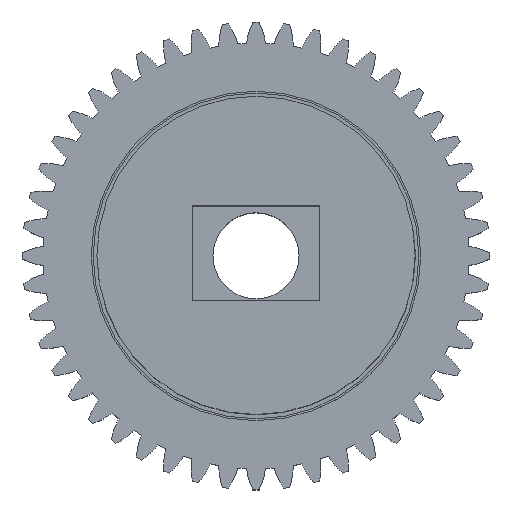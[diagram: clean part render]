
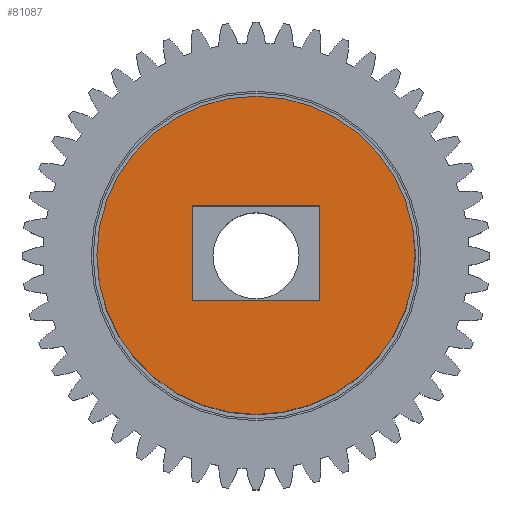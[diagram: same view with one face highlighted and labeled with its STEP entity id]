
A CAD part, top view. The second image highlights one B-rep face of the part: STEP entity #81087.
In plain terms, the highlighted planar face has unit normal (0, 0, 1) as drawn and (0, 0, -1) by its records, which use the part's own axes.
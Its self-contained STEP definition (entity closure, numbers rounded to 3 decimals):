
#80540 = PLANE('',#80541);
#80541 = AXIS2_PLACEMENT_3D('',#80542,#80543,#80544);
#80542 = CARTESIAN_POINT('',(-6.8,-5.3,67.));
#80543 = DIRECTION('',(1.,0.,-0.));
#80544 = DIRECTION('',(0.,0.,1.));
#80568 = PLANE('',#80569);
#80569 = AXIS2_PLACEMENT_3D('',#80570,#80571,#80572);
#80570 = CARTESIAN_POINT('',(-6.8,-5.3,67.));
#80571 = DIRECTION('',(-0.,1.,0.));
#80572 = DIRECTION('',(0.,0.,1.));
#80596 = PLANE('',#80597);
#80597 = AXIS2_PLACEMENT_3D('',#80598,#80599,#80600);
#80598 = CARTESIAN_POINT('',(6.8,-5.3,67.));
#80599 = DIRECTION('',(1.,0.,-0.));
#80600 = DIRECTION('',(0.,0.,1.));
#80622 = PLANE('',#80623);
#80623 = AXIS2_PLACEMENT_3D('',#80624,#80625,#80626);
#80624 = CARTESIAN_POINT('',(-6.8,4.8,67.));
#80625 = DIRECTION('',(-0.,1.,0.));
#80626 = DIRECTION('',(0.,0.,1.));
#80696 = VERTEX_POINT('',#80697);
#80697 = CARTESIAN_POINT('',(-6.8,-5.3,68.));
#80718 = EDGE_CURVE('',#80696,#80719,#80721,.T.);
#80719 = VERTEX_POINT('',#80720);
#80720 = CARTESIAN_POINT('',(-6.8,4.8,68.));
#80721 = SURFACE_CURVE('',#80722,(#80726,#80732),.PCURVE_S1.);
#80722 = LINE('',#80723,#80724);
#80723 = CARTESIAN_POINT('',(-6.8,-2.65,68.));
#80724 = VECTOR('',#80725,1.);
#80725 = DIRECTION('',(-0.,1.,0.));
#80726 = PCURVE('',#80540,#80727);
#80727 = DEFINITIONAL_REPRESENTATION('',(#80728),#80731);
#80728 = B_SPLINE_CURVE_WITH_KNOTS('',1,(#80729,#80730),.UNSPECIFIED.,
  .F.,.F.,(2,2),(-2.65,7.45),.PIECEWISE_BEZIER_KNOTS.);
#80729 = CARTESIAN_POINT('',(1.,0.));
#80730 = CARTESIAN_POINT('',(1.,-10.1));
#80731 = ( GEOMETRIC_REPRESENTATION_CONTEXT(2) 
PARAMETRIC_REPRESENTATION_CONTEXT() REPRESENTATION_CONTEXT('2D SPACE',''
  ) );
#80732 = PCURVE('',#80733,#80738);
#80733 = PLANE('',#80734);
#80734 = AXIS2_PLACEMENT_3D('',#80735,#80736,#80737);
#80735 = CARTESIAN_POINT('',(0.,0.,68.));
#80736 = DIRECTION('',(0.,0.,1.));
#80737 = DIRECTION('',(1.,0.,-0.));
#80738 = DEFINITIONAL_REPRESENTATION('',(#80739),#80742);
#80739 = B_SPLINE_CURVE_WITH_KNOTS('',1,(#80740,#80741),.UNSPECIFIED.,
  .F.,.F.,(2,2),(-2.65,7.45),.PIECEWISE_BEZIER_KNOTS.);
#80740 = CARTESIAN_POINT('',(-6.8,-5.3));
#80741 = CARTESIAN_POINT('',(-6.8,4.8));
#80742 = ( GEOMETRIC_REPRESENTATION_CONTEXT(2) 
PARAMETRIC_REPRESENTATION_CONTEXT() REPRESENTATION_CONTEXT('2D SPACE',''
  ) );
#80770 = VERTEX_POINT('',#80771);
#80771 = CARTESIAN_POINT('',(6.8,4.8,68.));
#80792 = EDGE_CURVE('',#80770,#80719,#80793,.T.);
#80793 = SURFACE_CURVE('',#80794,(#80798,#80804),.PCURVE_S1.);
#80794 = LINE('',#80795,#80796);
#80795 = CARTESIAN_POINT('',(-3.4,4.8,68.));
#80796 = VECTOR('',#80797,1.);
#80797 = DIRECTION('',(-1.,-0.,0.));
#80798 = PCURVE('',#80622,#80799);
#80799 = DEFINITIONAL_REPRESENTATION('',(#80800),#80803);
#80800 = B_SPLINE_CURVE_WITH_KNOTS('',1,(#80801,#80802),.UNSPECIFIED.,
  .F.,.F.,(2,2),(-10.2,3.4),.PIECEWISE_BEZIER_KNOTS.);
#80801 = CARTESIAN_POINT('',(1.,13.6));
#80802 = CARTESIAN_POINT('',(1.,0.));
#80803 = ( GEOMETRIC_REPRESENTATION_CONTEXT(2) 
PARAMETRIC_REPRESENTATION_CONTEXT() REPRESENTATION_CONTEXT('2D SPACE',''
  ) );
#80804 = PCURVE('',#80733,#80805);
#80805 = DEFINITIONAL_REPRESENTATION('',(#80806),#80809);
#80806 = B_SPLINE_CURVE_WITH_KNOTS('',1,(#80807,#80808),.UNSPECIFIED.,
  .F.,.F.,(2,2),(-10.2,3.4),.PIECEWISE_BEZIER_KNOTS.);
#80807 = CARTESIAN_POINT('',(6.8,4.8));
#80808 = CARTESIAN_POINT('',(-6.8,4.8));
#80809 = ( GEOMETRIC_REPRESENTATION_CONTEXT(2) 
PARAMETRIC_REPRESENTATION_CONTEXT() REPRESENTATION_CONTEXT('2D SPACE',''
  ) );
#80923 = VERTEX_POINT('',#80924);
#80924 = CARTESIAN_POINT('',(6.8,-5.3,68.));
#80945 = EDGE_CURVE('',#80923,#80696,#80946,.T.);
#80946 = SURFACE_CURVE('',#80947,(#80951,#80957),.PCURVE_S1.);
#80947 = LINE('',#80948,#80949);
#80948 = CARTESIAN_POINT('',(-3.4,-5.3,68.));
#80949 = VECTOR('',#80950,1.);
#80950 = DIRECTION('',(-1.,-0.,0.));
#80951 = PCURVE('',#80568,#80952);
#80952 = DEFINITIONAL_REPRESENTATION('',(#80953),#80956);
#80953 = B_SPLINE_CURVE_WITH_KNOTS('',1,(#80954,#80955),.UNSPECIFIED.,
  .F.,.F.,(2,2),(-10.2,3.4),.PIECEWISE_BEZIER_KNOTS.);
#80954 = CARTESIAN_POINT('',(1.,13.6));
#80955 = CARTESIAN_POINT('',(1.,0.));
#80956 = ( GEOMETRIC_REPRESENTATION_CONTEXT(2) 
PARAMETRIC_REPRESENTATION_CONTEXT() REPRESENTATION_CONTEXT('2D SPACE',''
  ) );
#80957 = PCURVE('',#80733,#80958);
#80958 = DEFINITIONAL_REPRESENTATION('',(#80959),#80962);
#80959 = B_SPLINE_CURVE_WITH_KNOTS('',1,(#80960,#80961),.UNSPECIFIED.,
  .F.,.F.,(2,2),(-10.2,3.4),.PIECEWISE_BEZIER_KNOTS.);
#80960 = CARTESIAN_POINT('',(6.8,-5.3));
#80961 = CARTESIAN_POINT('',(-6.8,-5.3));
#80962 = ( GEOMETRIC_REPRESENTATION_CONTEXT(2) 
PARAMETRIC_REPRESENTATION_CONTEXT() REPRESENTATION_CONTEXT('2D SPACE',''
  ) );
#80970 = EDGE_CURVE('',#80923,#80770,#80971,.T.);
#80971 = SURFACE_CURVE('',#80972,(#80976,#80982),.PCURVE_S1.);
#80972 = LINE('',#80973,#80974);
#80973 = CARTESIAN_POINT('',(6.8,-2.65,68.));
#80974 = VECTOR('',#80975,1.);
#80975 = DIRECTION('',(-0.,1.,0.));
#80976 = PCURVE('',#80596,#80977);
#80977 = DEFINITIONAL_REPRESENTATION('',(#80978),#80981);
#80978 = B_SPLINE_CURVE_WITH_KNOTS('',1,(#80979,#80980),.UNSPECIFIED.,
  .F.,.F.,(2,2),(-2.65,7.45),.PIECEWISE_BEZIER_KNOTS.);
#80979 = CARTESIAN_POINT('',(1.,0.));
#80980 = CARTESIAN_POINT('',(1.,-10.1));
#80981 = ( GEOMETRIC_REPRESENTATION_CONTEXT(2) 
PARAMETRIC_REPRESENTATION_CONTEXT() REPRESENTATION_CONTEXT('2D SPACE',''
  ) );
#80982 = PCURVE('',#80733,#80983);
#80983 = DEFINITIONAL_REPRESENTATION('',(#80984),#80987);
#80984 = B_SPLINE_CURVE_WITH_KNOTS('',1,(#80985,#80986),.UNSPECIFIED.,
  .F.,.F.,(2,2),(-2.65,7.45),.PIECEWISE_BEZIER_KNOTS.);
#80985 = CARTESIAN_POINT('',(6.8,-5.3));
#80986 = CARTESIAN_POINT('',(6.8,4.8));
#80987 = ( GEOMETRIC_REPRESENTATION_CONTEXT(2) 
PARAMETRIC_REPRESENTATION_CONTEXT() REPRESENTATION_CONTEXT('2D SPACE',''
  ) );
#81087 = ADVANCED_FACE('',(#81088,#81119),#80733,.F.);
#81088 = FACE_BOUND('',#81089,.F.);
#81089 = EDGE_LOOP('',(#81090));
#81090 = ORIENTED_EDGE('',*,*,#81091,.T.);
#81091 = EDGE_CURVE('',#81092,#81092,#81094,.T.);
#81092 = VERTEX_POINT('',#81093);
#81093 = CARTESIAN_POINT('',(17.,0.,68.));
#81094 = SURFACE_CURVE('',#81095,(#81100,#81107),.PCURVE_S1.);
#81095 = CIRCLE('',#81096,17.);
#81096 = AXIS2_PLACEMENT_3D('',#81097,#81098,#81099);
#81097 = CARTESIAN_POINT('',(0.,0.,68.));
#81098 = DIRECTION('',(0.,0.,1.));
#81099 = DIRECTION('',(1.,0.,-0.));
#81100 = PCURVE('',#80733,#81101);
#81101 = DEFINITIONAL_REPRESENTATION('',(#81102),#81106);
#81102 = CIRCLE('',#81103,17.);
#81103 = AXIS2_PLACEMENT_2D('',#81104,#81105);
#81104 = CARTESIAN_POINT('',(0.,0.));
#81105 = DIRECTION('',(1.,0.));
#81106 = ( GEOMETRIC_REPRESENTATION_CONTEXT(2) 
PARAMETRIC_REPRESENTATION_CONTEXT() REPRESENTATION_CONTEXT('2D SPACE',''
  ) );
#81107 = PCURVE('',#81108,#81113);
#81108 = CYLINDRICAL_SURFACE('',#81109,17.);
#81109 = AXIS2_PLACEMENT_3D('',#81110,#81111,#81112);
#81110 = CARTESIAN_POINT('',(0.,0.,68.));
#81111 = DIRECTION('',(0.,0.,1.));
#81112 = DIRECTION('',(1.,0.,-0.));
#81113 = DEFINITIONAL_REPRESENTATION('',(#81114),#81118);
#81114 = LINE('',#81115,#81116);
#81115 = CARTESIAN_POINT('',(0.,0.));
#81116 = VECTOR('',#81117,1.);
#81117 = DIRECTION('',(1.,0.));
#81118 = ( GEOMETRIC_REPRESENTATION_CONTEXT(2) 
PARAMETRIC_REPRESENTATION_CONTEXT() REPRESENTATION_CONTEXT('2D SPACE',''
  ) );
#81119 = FACE_BOUND('',#81120,.F.);
#81120 = EDGE_LOOP('',(#81121,#81122,#81123,#81124));
#81121 = ORIENTED_EDGE('',*,*,#80945,.T.);
#81122 = ORIENTED_EDGE('',*,*,#80718,.T.);
#81123 = ORIENTED_EDGE('',*,*,#80792,.F.);
#81124 = ORIENTED_EDGE('',*,*,#80970,.F.);
